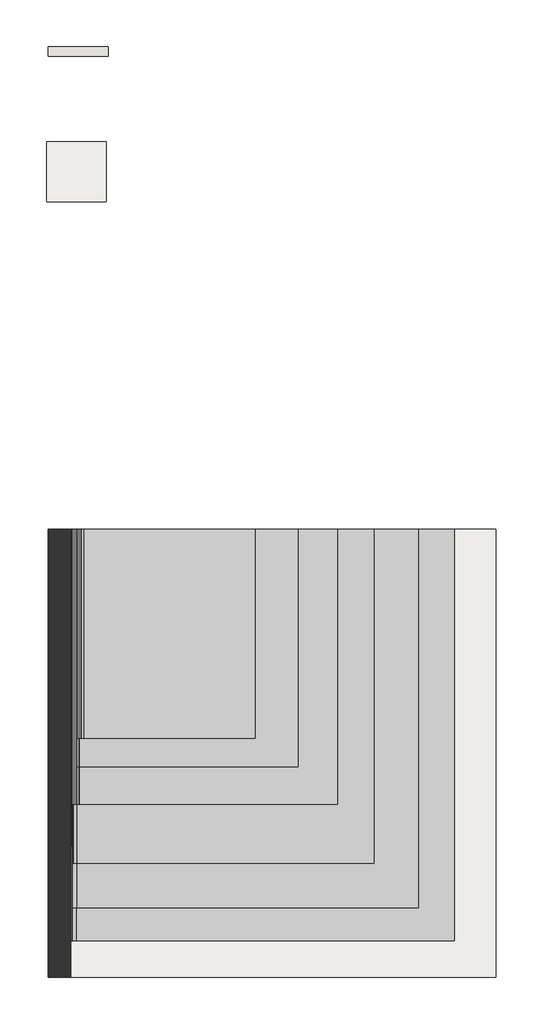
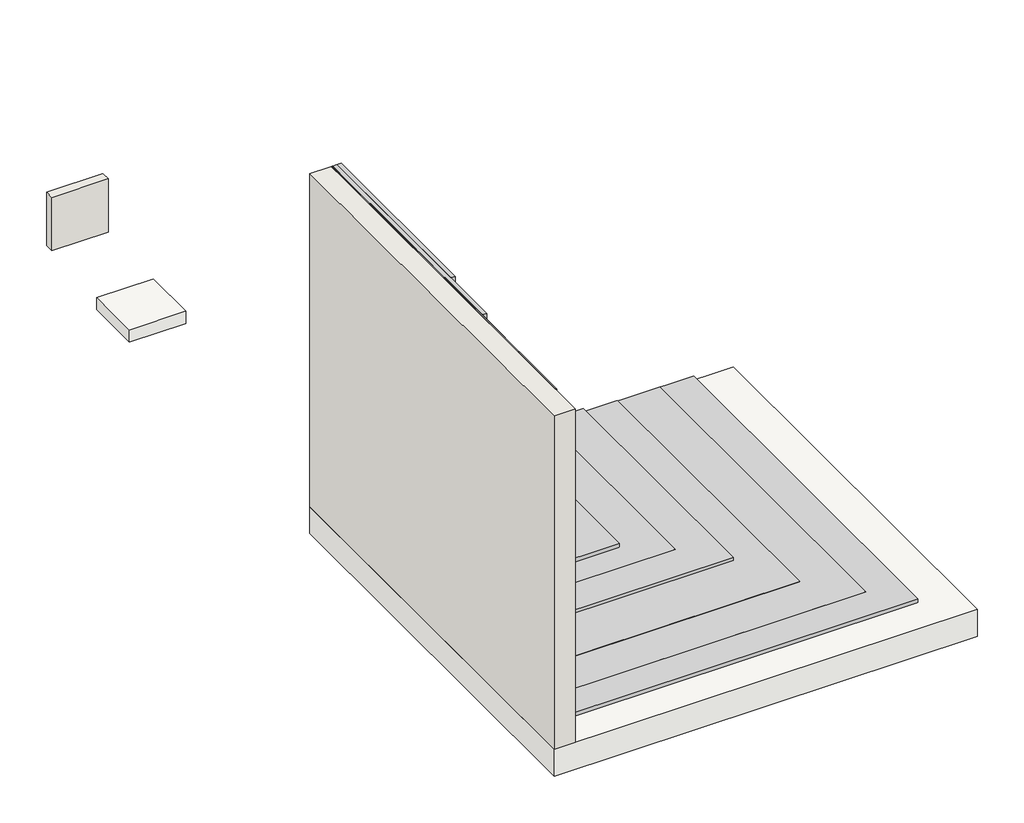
# One storey: 2 slabs, 2 walls, 1 proxy.
"""IFC4 building model written with IfcOpenShell, lengths in millimetres."""

from ifc_helpers import new_model, si_unit, frame, origin, place, context, project, spatial, polyline, outline, extrude, transform, mapped, element, save
from components import generic_models_d6b91a3f

model = new_model("IFC4")

# Units and contexts
model_context = context("Model", 3, world=origin())
ifc_project = project(units=[si_unit("LENGTHUNIT", "METRE", prefix="MILLI")], contexts=[model_context])

# Site, building, storey
site = spatial("IfcSite", under=ifc_project)
building = spatial("IfcBuilding", under=site)
storey = spatial("IfcBuildingStorey", under=building, Name="ARQ Térreo", Elevation=-2.523798)

# Proxy
placement = place(None, origin())
generic_models_shape = generic_models_d6b91a3f(model_context)
element("IfcBuildingElementProxy", 1, Name="IMPER:IMPER:433934 : IMPER:IMPER:433934", ObjectType="IMPER:IMPER:433934 : IMPER:IMPER:433934", at=placement, inside=storey, context=model_context, shape_type="MappedRepresentation", body=[
    mapped(generic_models_shape, transform((0.0, 0.0, 0.0), x_axis=(1.0, 0.0, 0.0), y_axis=(0.0, 1.0, 0.0), z_axis=(0.0, 0.0, 1.0))),
])

# Slabs
element("IfcSlab", 2, ObjectType="IMPH_T4PP", at=placement, inside=storey, context=model_context, shape_type="SweptSolid", body=[
    extrude(outline(polyline([(-514.5300247, 2740.9296337), (-114.5300247, 2740.9296337), (-114.5300247, 2340.9296337), (-514.5300247, 2340.9296337), (-514.5300247, 2740.9296337)])), frame((0.0, 0.0, -92.523798), z_axis=(0.0, 0.0, 1.0), x_axis=(1.0, 0.0, 0.0)), (0.0, 0.0, 1.0), 90.0),
])
element("IfcSlab", 3, ObjectType="Piso:LAJE CONCRETO", at=placement, inside=storey, context=model_context, shape_type="SweptSolid", body=[
    extrude(outline(polyline([(-501.9704105, 145.8700195), (2498.0295895, 145.8700195), (2498.0295895, -2854.1299805), (-501.9704105, -2854.1299805), (-501.9704105, 145.8700195)])), frame((0.0, 0.0, -202.523798), z_axis=(0.0, 0.0, 1.0), x_axis=(1.0, 0.0, 0.0)), (0.0, 0.0, 1.0), 200.0),
])

# Walls
element("IfcWall", 4, ObjectType="Parede básica:Parede Concreto", at=placement, inside=storey, context=model_context, shape_type="SweptSolid", body=[
    extrude(outline(polyline([(-501.9704105, -2854.1299805), (-501.9704105, 145.8700195), (-351.9704105, 145.8700195), (-351.9704105, -2854.1299805), (-501.9704105, -2854.1299805)])), frame((0.0, 0.0, -2.523798), z_axis=(0.0, 0.0, 1.0), x_axis=(1.0, 0.0, 0.0)), (0.0, 0.0, 1.0), 2500.0),
])
element("IfcWall", 5, ObjectType="IMPV_VITKOTE ELASTIC", at=placement, inside=storey, context=model_context, shape_type="SweptSolid", body=[
    extrude(outline(polyline([(-101.9704105, 3312.8700195), (-501.9704105, 3312.8700195), (-501.9704105, 3378.8700195), (-101.9704105, 3378.8700195), (-101.9704105, 3312.8700195)])), frame((0.0, 0.0, -2.523798), z_axis=(0.0, 0.0, 1.0), x_axis=(1.0, 0.0, 0.0)), (0.0, 0.0, 1.0), 400.0),
])

save(model, "model.ifc")
